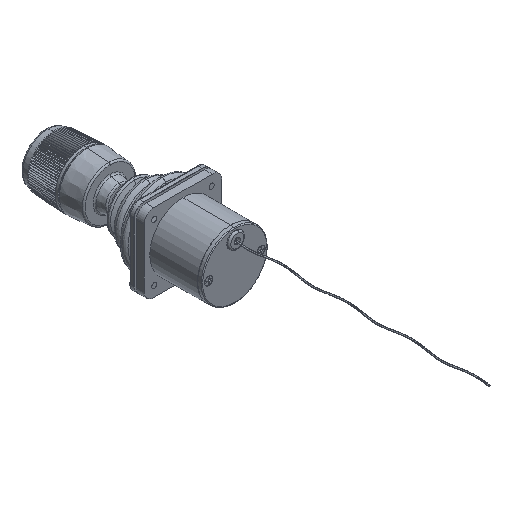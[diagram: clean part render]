
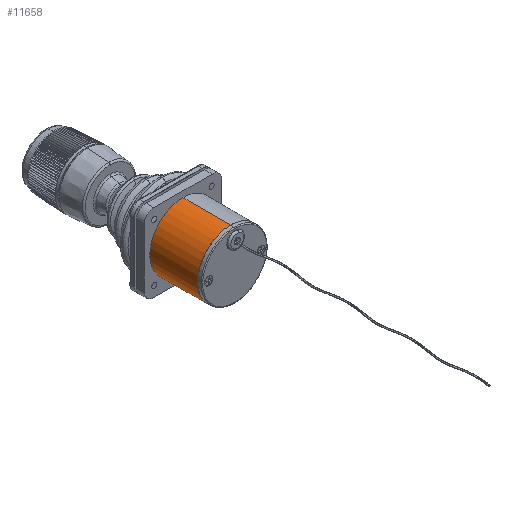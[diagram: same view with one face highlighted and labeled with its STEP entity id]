
A CAD part, isometric view. The second image highlights one B-rep face of the part: STEP entity #11658.
In plain terms, the highlighted cylindrical face has radius 20.6 mm (diameter 41.2 mm), a partial arc.
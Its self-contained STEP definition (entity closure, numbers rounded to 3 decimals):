
#668 = EDGE_CURVE ( 'NONE', #25022, #25024, #15642, .T. ) ;
#672 = EDGE_CURVE ( 'NONE', #25022, #25021, #15649, .T. ) ;
#3291 = DIRECTION ( 'NONE',  ( 0., 1., 0. ) ) ;
#3302 = CARTESIAN_POINT ( 'NONE',  ( 0., -10.1, 0. ) ) ;
#3310 = DIRECTION ( 'NONE',  ( 0., 0., 1. ) ) ;
#3989 = ORIENTED_EDGE ( 'NONE', *, *, #668, .F. ) ;
#3990 = ORIENTED_EDGE ( 'NONE', *, *, #20825, .T. ) ;
#3991 = ORIENTED_EDGE ( 'NONE', *, *, #20830, .T. ) ;
#4357 = ORIENTED_EDGE ( 'NONE', *, *, #672, .T. ) ;
#6737 = LINE ( 'NONE', #9847, #6740 ) ;
#6740 = VECTOR ( 'NONE', #9848, 1000. ) ;
#6745 = CIRCLE ( 'NONE', #11280, 20.6 ) ;
#7577 = CARTESIAN_POINT ( 'NONE',  ( 0., -10.1, 20.6 ) ) ;
#7578 = CARTESIAN_POINT ( 'NONE',  ( 0., -10.1, -20.6 ) ) ;
#7580 = CARTESIAN_POINT ( 'NONE',  ( 0., 19.5, -20.6 ) ) ;
#7581 = CARTESIAN_POINT ( 'NONE',  ( 0., 19.5, 20.6 ) ) ;
#9847 = CARTESIAN_POINT ( 'NONE',  ( 0., -10.1, 20.6 ) ) ;
#9848 = DIRECTION ( 'NONE',  ( 0., 1., 0. ) ) ;
#9892 = CARTESIAN_POINT ( 'NONE',  ( 0., 19.5, 0. ) ) ;
#9893 = DIRECTION ( 'NONE',  ( 0., -1., 0. ) ) ;
#9894 = DIRECTION ( 'NONE',  ( 0., 0., 1. ) ) ;
#10980 = FACE_OUTER_BOUND ( 'NONE', #22977, .T. ) ;
#10988 = CYLINDRICAL_SURFACE ( 'NONE', #13300, 20.6 ) ;
#11280 = AXIS2_PLACEMENT_3D ( 'NONE', #9892, #9893, #9894 ) ;
#11658 = ADVANCED_FACE ( 'NONE', ( #10980 ), #10988, .T. ) ;
#12660 = CARTESIAN_POINT ( 'NONE',  ( 0., -10.1, -20.6 ) ) ;
#12661 = DIRECTION ( 'NONE',  ( 0., 1., 0. ) ) ;
#12673 = CARTESIAN_POINT ( 'NONE',  ( 0., -10.1, 0. ) ) ;
#12674 = DIRECTION ( 'NONE',  ( 0., 1., 0. ) ) ;
#12675 = DIRECTION ( 'NONE',  ( 0., 0., 1. ) ) ;
#13161 = AXIS2_PLACEMENT_3D ( 'NONE', #12673, #12674, #12675 ) ;
#13300 = AXIS2_PLACEMENT_3D ( 'NONE', #3302, #3291, #3310 ) ;
#15642 = LINE ( 'NONE', #12660, #15645 ) ;
#15645 = VECTOR ( 'NONE', #12661, 1000. ) ;
#15649 = CIRCLE ( 'NONE', #13161, 20.6 ) ;
#20825 = EDGE_CURVE ( 'NONE', #25021, #25025, #6737, .T. ) ;
#20830 = EDGE_CURVE ( 'NONE', #25025, #25024, #6745, .T. ) ;
#22977 = EDGE_LOOP ( 'NONE', ( #3989, #4357, #3990, #3991 ) ) ;
#25021 = VERTEX_POINT ( 'NONE', #7577 ) ;
#25022 = VERTEX_POINT ( 'NONE', #7578 ) ;
#25024 = VERTEX_POINT ( 'NONE', #7580 ) ;
#25025 = VERTEX_POINT ( 'NONE', #7581 ) ;
